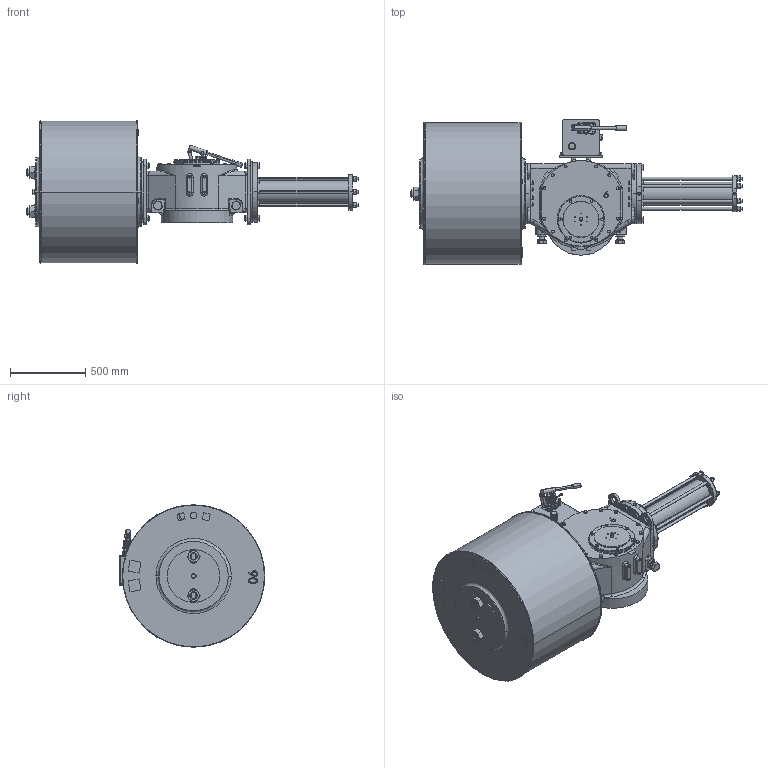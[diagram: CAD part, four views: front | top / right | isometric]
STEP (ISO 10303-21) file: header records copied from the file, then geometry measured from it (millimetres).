
FILE_DESCRIPTION (( 'STEP AP203' ), '1' );
FILE_NAME ('VTS6-900-MH.STEP', '2023-01-01T10:05:04', ( '' ), ( '' ), 'SwSTEP 2.0', 'SolidWorks 2020', '' );
FILE_SCHEMA (( 'CONFIG_CONTROL_DESIGN' ));
Length unit declared in the file: millimetre
Products named in the file (1): VTS6-900-MH
Bounding box: 2206 x 968.5 x 947 mm (x, y, z)
Volume: 597352831.1 mm3; surface area: 7661169.3 mm2
Topology: 77 solids, 80 shells, 3240 faces, 7963 edges, 5045 vertices
Faces by surface type: plane 1361, cylinder 1022, cone 752, bspline 105
Entity records: 111784 total; most frequent: CARTESIAN_POINT 35781, DIRECTION 15876, ORIENTED_EDGE 15810, EDGE_CURVE 7905, AXIS2_PLACEMENT_3D 6276, VERTEX_POINT 5045, EDGE_LOOP 3696, LINE 3324
